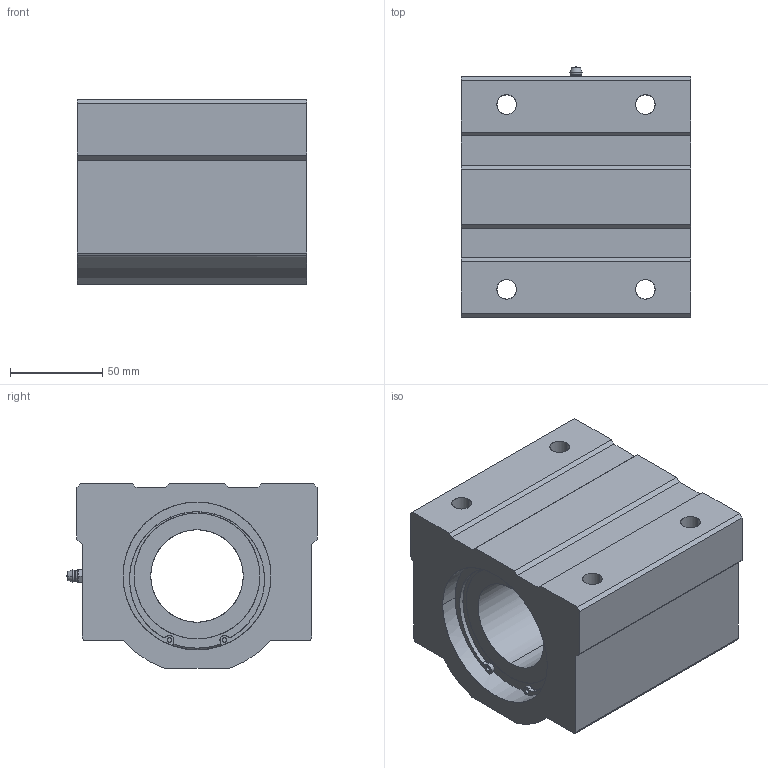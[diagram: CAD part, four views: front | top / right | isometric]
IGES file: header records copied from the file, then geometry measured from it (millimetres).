
Global section: file name: No Iges File Name specified; native system: AutoDesk Inventor R10; preprocessor: AutoDesk Inventor Iges Exporter R10; author: No Author specified; organization: No Organization specified; date: 20101214.143730; units: millimetre
Bounding box: 124 x 135.4 x 100 mm (x, y, z)
Surface area: 112650.3 mm2 (no closed solid volume)
Topology: 0 solids, 0 shells, 124 faces, 840 edges, 836 vertices
Faces by surface type: bspline 124
